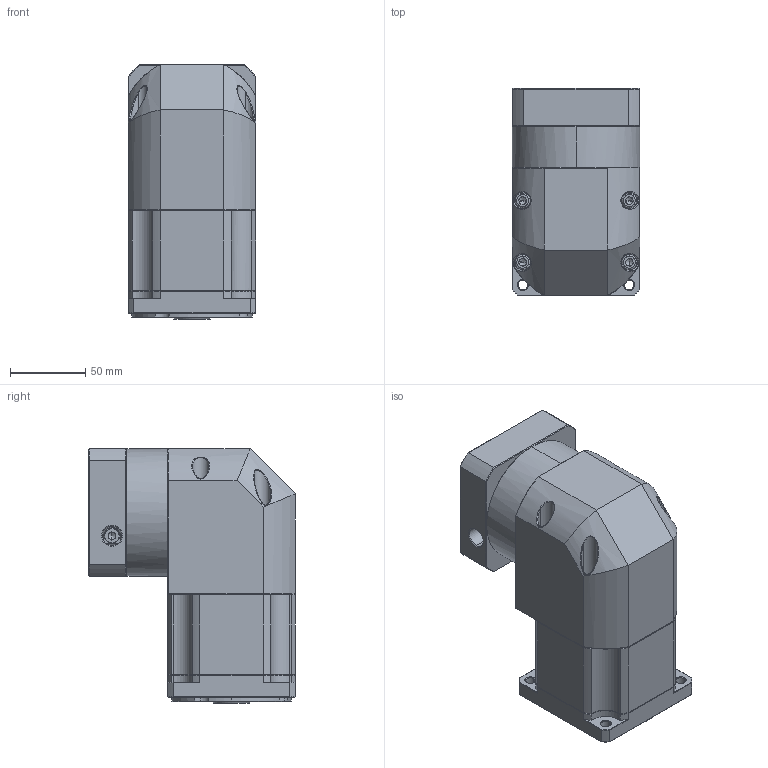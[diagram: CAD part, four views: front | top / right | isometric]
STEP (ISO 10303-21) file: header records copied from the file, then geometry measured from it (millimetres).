
FILE_DESCRIPTION (( 'STEP AP214' ), '1' );
FILE_NAME ('ZBR090-K15-L2-P2-12.7-73-69.6X69.6-M6.step', '2023-08-19T02:09:43', ( '' ), ( '' ), 'SwSTEP 2.0', 'SolidWorks 2016', '' );
FILE_SCHEMA (( 'AUTOMOTIVE_DESIGN' ));
Length unit declared in the file: millimetre
Products named in the file (1): ZBR090-K15-L2-P2-12.7-73-69.6X69.6-M6
Bounding box: 85 x 137.6 x 169.5 mm (x, y, z)
Volume: 1288112.7 mm3; surface area: 134191 mm2
Topology: 5 solids, 5 shells, 2341 faces, 6118 edges, 3868 vertices
Faces by surface type: plane 1150, bspline 414, cylinder 409, cone 344, torus 24
Entity records: 123729 total; most frequent: CARTESIAN_POINT 43863, ORIENTED_EDGE 12164, DIRECTION 9708, EDGE_CURVE 6082, LINE 3908, VECTOR 3908, VERTEX_POINT 3868, AXIS2_PLACEMENT_3D 2900
